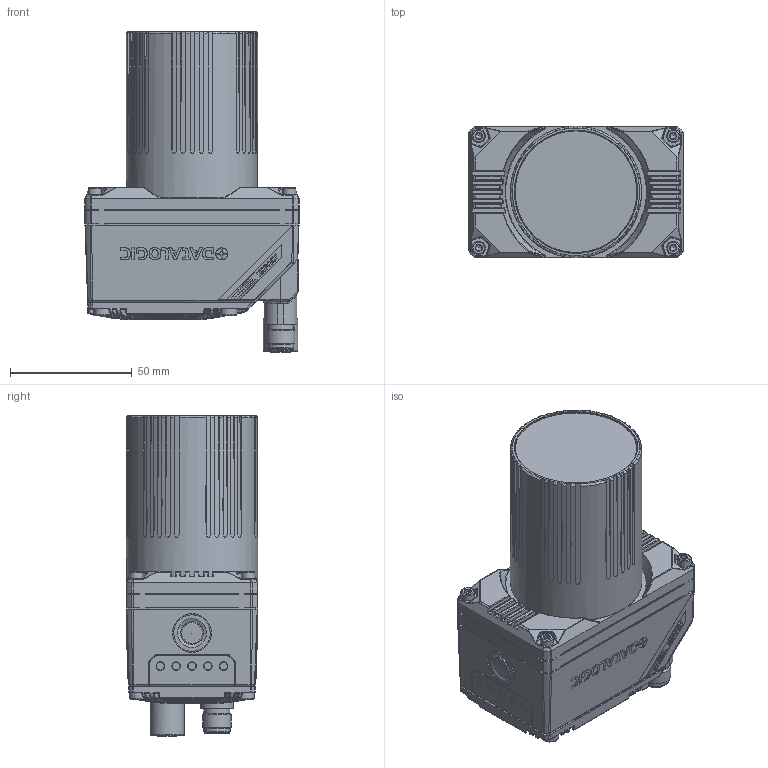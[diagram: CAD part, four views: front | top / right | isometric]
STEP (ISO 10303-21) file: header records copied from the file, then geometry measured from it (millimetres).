
FILE_DESCRIPTION(/* description */ (''),/* implementation_level */ '2;1');
FILE_NAME(/* name */ 'AP035917_00-P2X C-Mount bicchiere lungo 90_.stp',/* time_stamp */ '2022-03-16T16:39:15+01:00',/* author */ (''),/* organization */ (''),/* preprocessor_version */ 'ST-DEVELOPER v16.7',/* originating_system */ 'SIEMENS PLM Software NX 1946',/* authorisation */ '');
FILE_SCHEMA (('AUTOMOTIVE_DESIGN { 1 0 10303 214 3 1 1 1 }'));
Products named in the file (1): FGutB01403CDtyz0
Bounding box: 88 x 54.2 x 131.71 mm (x, y, z)
Volume: 376104.4 mm3; surface area: 50903.4 mm2
Topology: 1 solids, 13 shells, 3193 faces, 7581 edges, 4413 vertices
Faces by surface type: plane 1269, cylinder 863, bspline 451, torus 185, cone 171, sphere 170, extrusion 84
Full cylindrical faces by diameter (mm): 0.6 x7, 3.2 x5, 3.3 x9, 3.5 x5, 5.5 x4, 6.2 x4, 7 x3, 9.5 x2, 10.5 x1, 10.7 x1, 10.8 x1, 11.15 x1, 11.85 x1, 12.2 x1, 13.5 x2, 14 x1, 15 x1, 16 x1, 48 x1, 50 x1, 50.4 x1, 54 x1
Entity records: 120758 total; most frequent: CARTESIAN_POINT 44029, ORIENTED_EDGE 14442, DIRECTION 13848, EDGE_CURVE 7221, AXIS2_PLACEMENT_3D 5347, VERTEX_POINT 4368, EDGE_LOOP 3528, ADVANCED_FACE 3190
